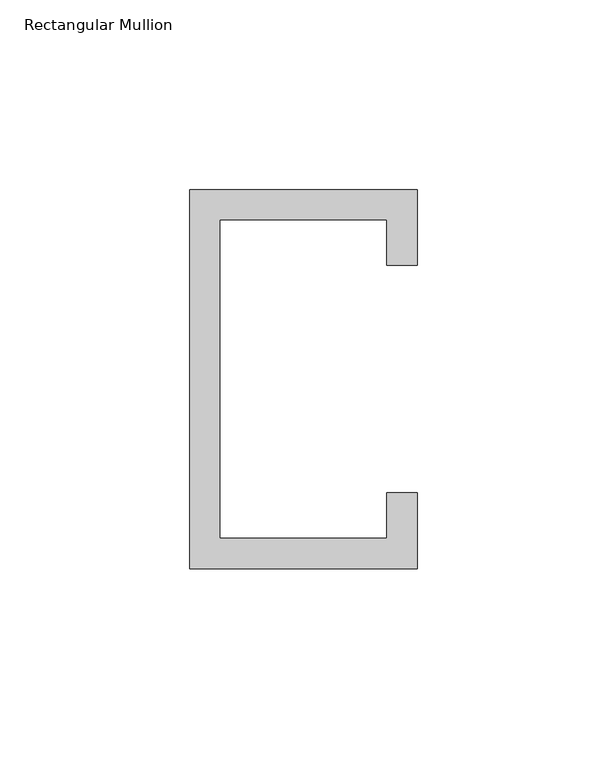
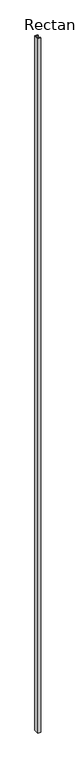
"""IFC4 building model written with IfcOpenShell, lengths in millimetres: member geometry, Rectangular Mullion : TERÇA METÁLICA 10CM."""

import ifcopenshell
import ifcopenshell.guid

model = None  # the IFC model being written
_history = None  # IfcOwnerHistory: only IFC2X3 demands one
_inside = {}  # id of a spatial element -> (the spatial element, [elements in it])
_under = {}  # id of a project, library or spatial element -> (it, [spatial elements below it])
_declared = {}  # id of a project -> (the project, [libraries it declares])
_typed = {}  # id of a type object -> (the type object, [elements of that type])
_made_of = {}  # id of a material, layer set ... -> (it, [elements and type objects made of it])


def new_model(schema):
    """Start an empty IFC model of exactly this schema.

    Asked for "IFC4X3", IfcOpenShell would pick the latest addendum, in which some entities
    have other attributes; the version numbers below select the first issue.
    IFC2X3 requires an IfcOwnerHistory on every rooted entity: one is made here for all.
    """
    global model, _history
    if schema == "IFC4X3":
        model = ifcopenshell.file(schema_version=(4, 3, 0, 0))
    else:
        model = ifcopenshell.file(schema=schema)
    _inside.clear()
    _under.clear()
    _declared.clear()
    _typed.clear()
    _made_of.clear()
    _history = None
    if model.schema == "IFC2X3":
        org = make("IfcOrganization", Name="unknown")
        user = make(
            "IfcPersonAndOrganization",
            ThePerson=make("IfcPerson", FamilyName="unknown"),
            TheOrganization=org,
        )
        app = make(
            "IfcApplication",
            ApplicationDeveloper=org,
            Version="unknown",
            ApplicationFullName="unknown",
            ApplicationIdentifier="unknown",
        )
        _history = make(
            "IfcOwnerHistory",
            OwningUser=user,
            OwningApplication=app,
            ChangeAction="ADDED",
            CreationDate=0,
        )
    return model


def make(cls, **values):
    """One entity of the class cls with the attributes given. An attribute that is None is left unset."""
    return model.create_entity(
        cls, **{name: value for name, value in values.items() if value is not None}
    )


def rooted(cls, **values):
    """An entity with a GlobalId (a new one), such as an element, a storey or a relation."""
    return make(cls, GlobalId=ifcopenshell.guid.new(), OwnerHistory=_history, **values)


def si_unit(unit_type, name, prefix=None):
    """IfcSIUnit, for example si_unit("LENGTHUNIT", "METRE", prefix="MILLI")."""
    return make("IfcSIUnit", UnitType=unit_type, Prefix=prefix, Name=name)


def assignment(units):
    """IfcUnitAssignment: the units of a project."""
    return None if units is None else make("IfcUnitAssignment", Units=units)


def point(xyz):
    """IfcCartesianPoint."""
    return None if xyz is None else make("IfcCartesianPoint", Coordinates=xyz)


def direction(xyz):
    """IfcDirection."""
    return None if xyz is None else make("IfcDirection", DirectionRatios=xyz)


def frame(location, z_axis=None, x_axis=None):
    """IfcAxis2Placement3D, a coordinate frame: its origin and axes. An axis left out is left unset."""
    return make(
        "IfcAxis2Placement3D",
        Location=point(location),
        Axis=direction(z_axis),
        RefDirection=direction(x_axis),
    )


def origin():
    """The frame at (0, 0, 0) with its axes left unset."""
    return frame((0.0, 0.0, 0.0))


def place(relative_to, where):
    """IfcLocalPlacement: puts the frame where relative to a parent placement (None: the world)."""
    return make(
        "IfcLocalPlacement", PlacementRelTo=relative_to, RelativePlacement=where
    )


def context(
    kind, dimensions, precision=None, world=None, true_north=None, identifier=None
):
    """IfcGeometricRepresentationContext, for example the 3D "Model" context."""
    return make(
        "IfcGeometricRepresentationContext",
        ContextIdentifier=identifier,
        ContextType=kind,
        CoordinateSpaceDimension=dimensions,
        Precision=precision,
        WorldCoordinateSystem=world,
        TrueNorth=true_north,
    )


def project(units=None, contexts=None):
    """IfcProject with its units and contexts."""
    return rooted(
        "IfcProject",
        Name="project",
        RepresentationContexts=contexts,
        UnitsInContext=assignment(units),
    )


def spatial(cls, under=None, at=None, **own):
    """A site, building, storey or space (cls), placed at a placement, below another one or the project."""
    s = rooted(cls, ObjectPlacement=at, **own)
    if under is not None:
        _under.setdefault(under.id(), (under, []))[1].append(s)
    return s


def polyline(points):
    """IfcPolyline through the points."""
    return make("IfcPolyline", Points=[point(p) for p in points])


def outline(outer, holes=None, kind="AREA"):
    """IfcArbitraryClosedProfileDef: a profile drawn as a closed curve; with holes, ...WithVoids."""
    if holes is None:
        return make("IfcArbitraryClosedProfileDef", ProfileType=kind, OuterCurve=outer)
    return make(
        "IfcArbitraryProfileDefWithVoids",
        ProfileType=kind,
        OuterCurve=outer,
        InnerCurves=holes,
    )


def extrude(swept, where, along, depth):
    """IfcExtrudedAreaSolid: the profile swept, set in the frame where, extruded along a direction by depth."""
    return make(
        "IfcExtrudedAreaSolid",
        SweptArea=swept,
        Position=where,
        ExtrudedDirection=direction(along),
        Depth=depth,
    )


def shape(context_of_items, identifier, shape_type, items):
    """IfcShapeRepresentation: the items that make up one representation, for example the "Body"."""
    return make(
        "IfcShapeRepresentation",
        ContextOfItems=context_of_items,
        RepresentationIdentifier=identifier,
        RepresentationType=shape_type,
        Items=items,
    )


def source(mapping_origin, context_of_items, identifier, shape_type, items):
    """IfcRepresentationMap: a shape defined once, which mapped items show again and again."""
    return make(
        "IfcRepresentationMap",
        MappingOrigin=mapping_origin,
        MappedRepresentation=shape(context_of_items, identifier, shape_type, items),
    )


def transform(
    local_origin,
    x_axis=None,
    y_axis=None,
    z_axis=None,
    scale=None,
    scale2=None,
    scale3=None,
    uniform=True,
):
    """IfcCartesianTransformationOperator3D, or its non-uniform kind. x_axis, y_axis, z_axis: its Axis1, 2, 3."""
    if uniform:
        return make(
            "IfcCartesianTransformationOperator3D",
            Axis1=direction(x_axis),
            Axis2=direction(y_axis),
            LocalOrigin=point(local_origin),
            Scale=scale,
            Axis3=direction(z_axis),
        )
    return make(
        "IfcCartesianTransformationOperator3DnonUniform",
        Axis1=direction(x_axis),
        Axis2=direction(y_axis),
        LocalOrigin=point(local_origin),
        Scale=scale,
        Axis3=direction(z_axis),
        Scale2=scale2,
        Scale3=scale3,
    )


def mapped(mapping_source, mapping_target):
    """IfcMappedItem: shows the shape of a source again, moved by a transform."""
    return make(
        "IfcMappedItem", MappingSource=mapping_source, MappingTarget=mapping_target
    )


def made_of(thing, what):
    """Note that an element or type object is made of a material, layer set ...; save() writes the relation."""
    if what is not None:
        _made_of.setdefault(what.id(), (what, []))[1].append(thing)
    return thing


def element(
    cls,
    number,
    at=None,
    inside=None,
    cuts=None,
    type_object=None,
    material=None,
    context=None,
    identifier="Body",
    shape_type=None,
    held_by="IfcProductDefinitionShape",
    body=None,
    shapes=None,
    **own,
):
    """One element of the class cls, such as IfcWall. Its Tag is "e" and its number.

    at: its placement. inside: the storey or other place that contains it. cuts: it is an
    opening in that element (IfcRelVoidsElement). A single representation is given by context,
    identifier, shape_type and body (its items); several are given by shapes. held_by: the class
    of the entity that holds the representations. save() writes the other relations.
    """
    e = rooted(cls, Tag="e%d" % number, ObjectPlacement=at, **own)
    if body is not None:
        shapes = [shape(context, identifier, shape_type, body)]
    if shapes is not None:
        e.Representation = make(held_by, Representations=shapes)
    if inside is not None:
        _inside.setdefault(inside.id(), (inside, []))[1].append(e)
    if cuts is not None:
        rooted(
            "IfcRelVoidsElement", RelatingBuildingElement=cuts, RelatedOpeningElement=e
        )
    if type_object is not None:
        _typed.setdefault(type_object.id(), (type_object, []))[1].append(e)
    return made_of(e, material)


def aggregate(whole, parts):
    """IfcRelAggregates: a whole, such as a stair, and the parts it consists of."""
    return rooted("IfcRelAggregates", RelatingObject=whole, RelatedObjects=parts)


def save(model, path):
    """Write the relations noted so far, then the file.

    IfcRelAggregates (storeys below a building ...), IfcRelContainedInSpatialStructure (elements
    in a storey), IfcRelDefinesByType, IfcRelAssociatesMaterial and IfcRelDeclares: one each for
    every whole, place, type object, material and project.
    """
    for whole, parts in _under.values():
        aggregate(whole, parts)
    for where, things in _inside.values():
        rooted(
            "IfcRelContainedInSpatialStructure",
            RelatedElements=things,
            RelatingStructure=where,
        )
    for kind, things in _typed.values():
        rooted("IfcRelDefinesByType", RelatedObjects=things, RelatingType=kind)
    for what, things in _made_of.values():
        rooted("IfcRelAssociatesMaterial", RelatedObjects=things, RelatingMaterial=what)
    for by, libraries in _declared.values():
        rooted("IfcRelDeclares", RelatingContext=by, RelatedDefinitions=libraries)
    model.write(path)


def rectangular_mullion_457512c9(model_context):
    return source(origin(), model_context, "Body", "SweptSolid", [
        extrude(outline(polyline([(0.0, 0.0), (60.0, 0.0), (60.0, -20.0), (52.0, -20.0), (52.0, -8.0), (8.0, -8.0), (8.0, -92.0), (52.0, -92.0), (52.0, -80.0), (60.0, -80.0), (60.0, -100.0), (0.0, -100.0), (0.0, 0.0)])), frame((0.0, 0.0, -14652.0975043), z_axis=(0.0, 0.0, 1.0), x_axis=(1.0, 0.0, 0.0)), (0.0, 0.0, 1.0), 14652.0975043),
    ])


if __name__ == "__main__":
    model = new_model("IFC4")
    model_context = context("Model", 3, world=origin())
    ifc_project = project(units=[si_unit("LENGTHUNIT", "METRE", prefix="MILLI")], contexts=[model_context])
    site = spatial("IfcSite", under=ifc_project)
    building = spatial("IfcBuilding", under=site)
    placement = place(None, origin())
    rectangular_mullion_shape = rectangular_mullion_457512c9(model_context)
    element("IfcMember", 1, ObjectType="Rectangular Mullion : TERÇA METÁLICA 10CM", at=placement, inside=building, context=model_context, shape_type="MappedRepresentation", body=[
        mapped(rectangular_mullion_shape, transform((0.0, 0.0, 0.0), x_axis=(1.0, 0.0, 0.0), y_axis=(0.0, 1.0, 0.0), z_axis=(0.0, 0.0, 1.0))),
    ])
    save(model, "model.ifc")
